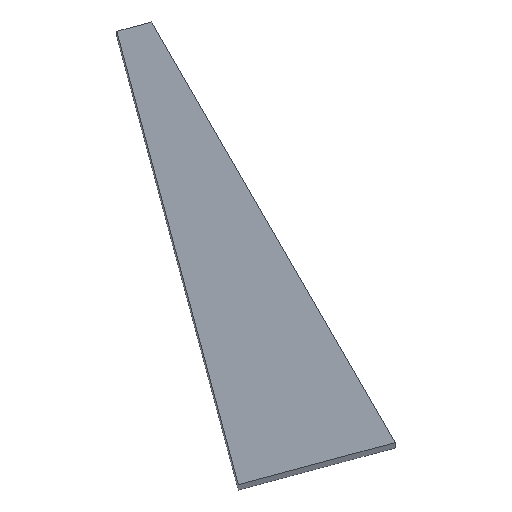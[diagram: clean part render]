
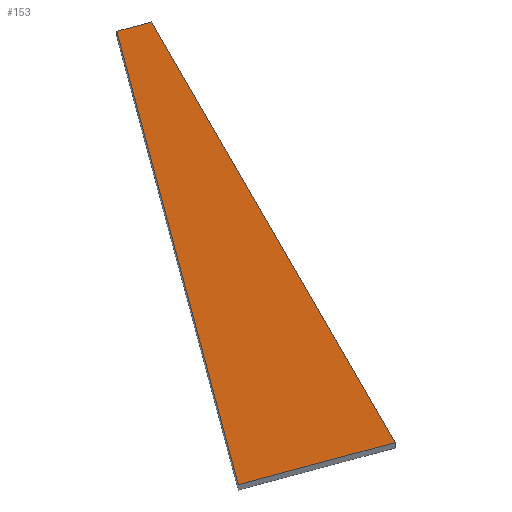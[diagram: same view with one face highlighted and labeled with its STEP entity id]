
A CAD part, top view. The second image highlights one B-rep face of the part: STEP entity #153.
In plain terms, the highlighted planar face has unit normal (0, 0, 1).
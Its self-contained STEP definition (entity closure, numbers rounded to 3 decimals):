
#24 = VERTEX_POINT('',#25);
#25 = CARTESIAN_POINT('',(7.371,-27.511,100.));
#31 = EDGE_CURVE('',#24,#32,#34,.T.);
#32 = VERTEX_POINT('',#33);
#33 = CARTESIAN_POINT('',(8.337,-27.252,100.));
#34 = LINE('',#35,#36);
#35 = CARTESIAN_POINT('',(7.371,-27.511,100.));
#36 = VECTOR('',#37,1.);
#37 = DIRECTION('',(0.966,0.259,0.));
#62 = EDGE_CURVE('',#32,#63,#65,.T.);
#63 = VERTEX_POINT('',#64);
#64 = CARTESIAN_POINT('',(15.083,-38.903,100.));
#65 = LINE('',#66,#67);
#66 = CARTESIAN_POINT('',(8.337,-27.252,100.));
#67 = VECTOR('',#68,1.);
#68 = DIRECTION('',(0.501,-0.865,0.));
#93 = EDGE_CURVE('',#63,#94,#96,.T.);
#94 = VERTEX_POINT('',#95);
#95 = CARTESIAN_POINT('',(10.736,-40.068,100.));
#96 = LINE('',#97,#98);
#97 = CARTESIAN_POINT('',(15.083,-38.903,100.));
#98 = VECTOR('',#99,1.);
#99 = DIRECTION('',(-0.966,-0.259,0.));
#124 = EDGE_CURVE('',#94,#24,#125,.T.);
#125 = LINE('',#126,#127);
#126 = CARTESIAN_POINT('',(10.736,-40.068,100.));
#127 = VECTOR('',#128,1.);
#128 = DIRECTION('',(-0.259,0.966,0.));
#153 = ADVANCED_FACE('',(#154),#160,.F.);
#154 = FACE_BOUND('',#155,.F.);
#155 = EDGE_LOOP('',(#156,#157,#158,#159));
#156 = ORIENTED_EDGE('',*,*,#31,.T.);
#157 = ORIENTED_EDGE('',*,*,#62,.T.);
#158 = ORIENTED_EDGE('',*,*,#93,.T.);
#159 = ORIENTED_EDGE('',*,*,#124,.T.);
#160 = PLANE('',#161);
#161 = AXIS2_PLACEMENT_3D('',#162,#163,#164);
#162 = CARTESIAN_POINT('',(10.678,-34.091,100.));
#163 = DIRECTION('',(-0.,-0.,-1.));
#164 = DIRECTION('',(-1.,0.,0.));
